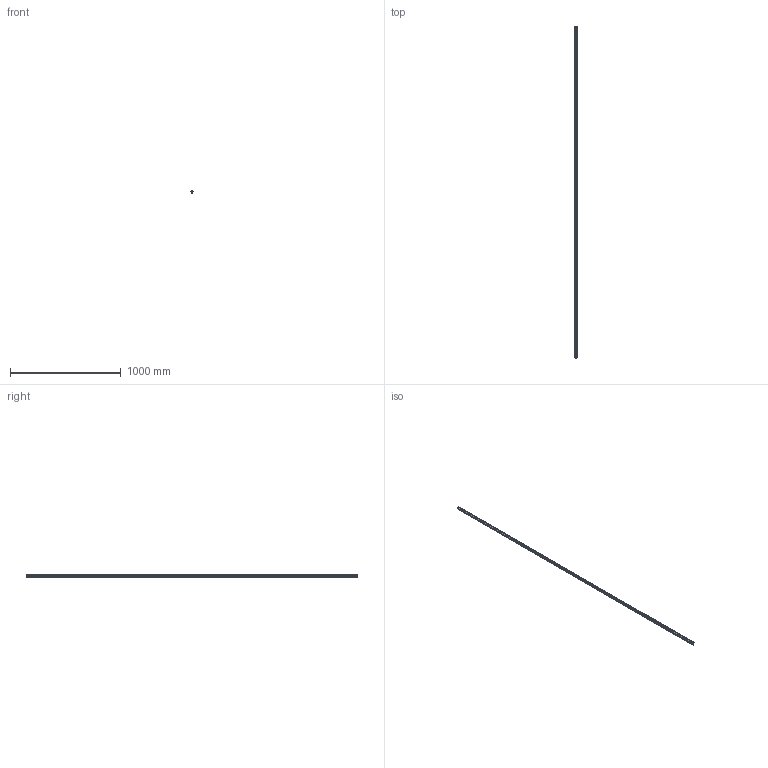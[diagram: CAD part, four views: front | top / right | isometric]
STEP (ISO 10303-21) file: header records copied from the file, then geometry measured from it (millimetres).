
FILE_DESCRIPTION((''),'2;1');
FILE_NAME('GSC0810','2002-12-27T',('Lipro doo'),('Lipro d.o.o.'),'PRO/ENGINEER BY PARAMETRIC TECHNOLOGY CORPORATION, 2001150','PRO/ENGINEER BY PARAMETRIC TECHNOLOGY CORPORATION, 2001150','');
FILE_SCHEMA(('CONFIG_CONTROL_DESIGN'));
Length unit declared in the file: millimetre
Products named in the file (1): GSC0810
Bounding box: 20.2 x 3000 x 24.85 mm (x, y, z)
Volume: 965670 mm3; surface area: 286733.2 mm2
Topology: 1 solids, 1 shells, 22 faces, 60 edges, 40 vertices
Faces by surface type: plane 22
Entity records: 722 total; most frequent: CARTESIAN_POINT 122, ORIENTED_EDGE 120, DIRECTION 104, VECTOR 60, LINE 60, EDGE_CURVE 60, VERTEX_POINT 40, AXIS2_PLACEMENT_3D 22
